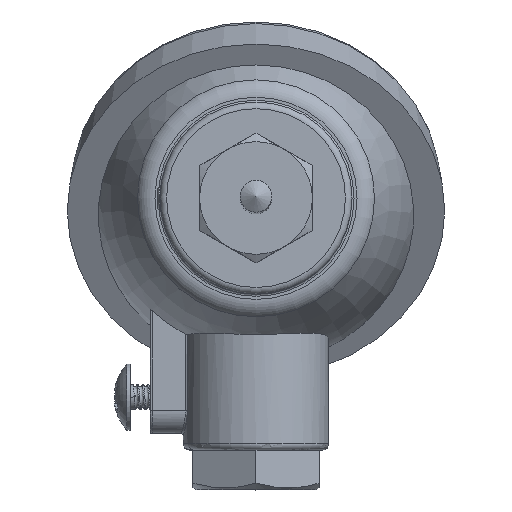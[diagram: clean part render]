
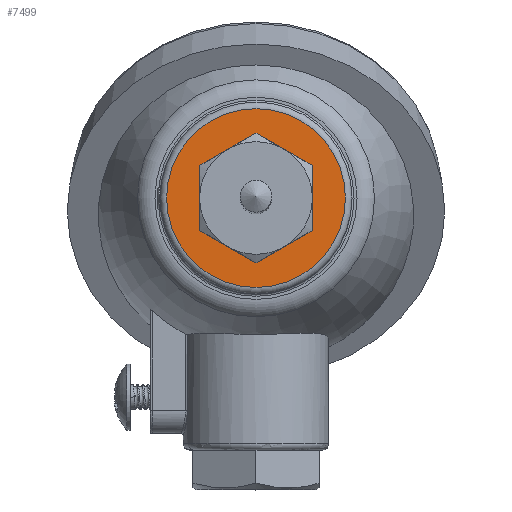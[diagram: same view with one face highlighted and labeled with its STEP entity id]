
A CAD part, top view. The second image highlights one B-rep face of the part: STEP entity #7499.
In plain terms, the highlighted planar face has unit normal (0, 0, 1).
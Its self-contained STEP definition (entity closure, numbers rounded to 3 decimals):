
#108 = VECTOR ( 'NONE', #4947, 1000. ) ;
#164 = CARTESIAN_POINT ( 'NONE',  ( 8.487, 4.9, -5. ) ) ;
#181 = LINE ( 'NONE', #1418, #7184 ) ;
#192 = EDGE_CURVE ( 'NONE', #4433, #4866, #4900, .T. ) ;
#287 = ORIENTED_EDGE ( 'NONE', *, *, #6498, .F. ) ;
#399 = ORIENTED_EDGE ( 'NONE', *, *, #2968, .F. ) ;
#429 = DIRECTION ( 'NONE',  ( 0.866, 0.5, 0. ) ) ;
#499 = DIRECTION ( 'NONE',  ( 0., 1., 0. ) ) ;
#539 = CARTESIAN_POINT ( 'NONE',  ( 0., 0., -5. ) ) ;
#591 = CARTESIAN_POINT ( 'NONE',  ( -8.487, -4.9, -5. ) ) ;
#642 = DIRECTION ( 'NONE',  ( -0.866, 0.5, 0. ) ) ;
#801 = CARTESIAN_POINT ( 'NONE',  ( 8.487, -4.9, -5. ) ) ;
#1051 = LINE ( 'NONE', #5869, #2582 ) ;
#1140 = ORIENTED_EDGE ( 'NONE', *, *, #4367, .F. ) ;
#1166 = FACE_OUTER_BOUND ( 'NONE', #5166, .T. ) ;
#1418 = CARTESIAN_POINT ( 'NONE',  ( 0., 9.8, -5. ) ) ;
#1540 = CARTESIAN_POINT ( 'NONE',  ( -8.487, -4.9, -5. ) ) ;
#1585 = ORIENTED_EDGE ( 'NONE', *, *, #192, .F. ) ;
#1655 = DIRECTION ( 'NONE',  ( 0.866, -0.5, 0. ) ) ;
#1838 = VERTEX_POINT ( 'NONE', #7630 ) ;
#1841 = PLANE ( 'NONE',  #7375 ) ;
#1865 = CARTESIAN_POINT ( 'NONE',  ( 0., 13.5, -5. ) ) ;
#1998 = LINE ( 'NONE', #801, #108 ) ;
#2054 = CARTESIAN_POINT ( 'NONE',  ( 0., 9.8, -5. ) ) ;
#2132 = VERTEX_POINT ( 'NONE', #591 ) ;
#2427 = CARTESIAN_POINT ( 'NONE',  ( 0., -9.8, -5. ) ) ;
#2530 = EDGE_CURVE ( 'NONE', #6647, #6647, #6909, .T. ) ;
#2553 = VECTOR ( 'NONE', #642, 1000. ) ;
#2582 = VECTOR ( 'NONE', #5906, 1000. ) ;
#2968 = EDGE_CURVE ( 'NONE', #4866, #7873, #181, .T. ) ;
#3228 = VERTEX_POINT ( 'NONE', #3478 ) ;
#3437 = EDGE_CURVE ( 'NONE', #2132, #3228, #6435, .T. ) ;
#3478 = CARTESIAN_POINT ( 'NONE',  ( 0., -9.8, -5. ) ) ;
#3506 = EDGE_CURVE ( 'NONE', #7873, #2132, #1051, .T. ) ;
#3639 = ORIENTED_EDGE ( 'NONE', *, *, #3437, .F. ) ;
#3679 = CARTESIAN_POINT ( 'NONE',  ( 0., 0., -5. ) ) ;
#3845 = DIRECTION ( 'NONE',  ( -0.866, -0.5, 0. ) ) ;
#4367 = EDGE_CURVE ( 'NONE', #1838, #4433, #1998, .T. ) ;
#4433 = VERTEX_POINT ( 'NONE', #6453 ) ;
#4761 = DIRECTION ( 'NONE',  ( 0., 0., 1. ) ) ;
#4866 = VERTEX_POINT ( 'NONE', #2054 ) ;
#4900 = LINE ( 'NONE', #164, #2553 ) ;
#4947 = DIRECTION ( 'NONE',  ( 0., 1., 0. ) ) ;
#5166 = EDGE_LOOP ( 'NONE', ( #6941 ) ) ;
#5869 = CARTESIAN_POINT ( 'NONE',  ( -8.487, 4.9, -5. ) ) ;
#5906 = DIRECTION ( 'NONE',  ( 0., -1., 0. ) ) ;
#6112 = DIRECTION ( 'NONE',  ( 0., 1., 0. ) ) ;
#6435 = LINE ( 'NONE', #1540, #6649 ) ;
#6453 = CARTESIAN_POINT ( 'NONE',  ( 8.487, 4.9, -5. ) ) ;
#6498 = EDGE_CURVE ( 'NONE', #3228, #1838, #7888, .T. ) ;
#6627 = FACE_BOUND ( 'NONE', #6765, .T. ) ;
#6647 = VERTEX_POINT ( 'NONE', #1865 ) ;
#6649 = VECTOR ( 'NONE', #1655, 1000. ) ;
#6710 = DIRECTION ( 'NONE',  ( 0., 0., -1. ) ) ;
#6765 = EDGE_LOOP ( 'NONE', ( #287, #3639, #7213, #399, #1585, #1140 ) ) ;
#6909 = CIRCLE ( 'NONE', #7291, 13.5 ) ;
#6941 = ORIENTED_EDGE ( 'NONE', *, *, #2530, .T. ) ;
#7070 = VECTOR ( 'NONE', #429, 1000. ) ;
#7184 = VECTOR ( 'NONE', #3845, 1000. ) ;
#7213 = ORIENTED_EDGE ( 'NONE', *, *, #3506, .F. ) ;
#7245 = CARTESIAN_POINT ( 'NONE',  ( -8.487, 4.9, -5. ) ) ;
#7291 = AXIS2_PLACEMENT_3D ( 'NONE', #539, #4761, #499 ) ;
#7375 = AXIS2_PLACEMENT_3D ( 'NONE', #3679, #6710, #6112 ) ;
#7499 = ADVANCED_FACE ( 'NONE', ( #6627, #1166 ), #1841, .F. ) ;
#7630 = CARTESIAN_POINT ( 'NONE',  ( 8.487, -4.9, -5. ) ) ;
#7873 = VERTEX_POINT ( 'NONE', #7245 ) ;
#7888 = LINE ( 'NONE', #2427, #7070 ) ;
